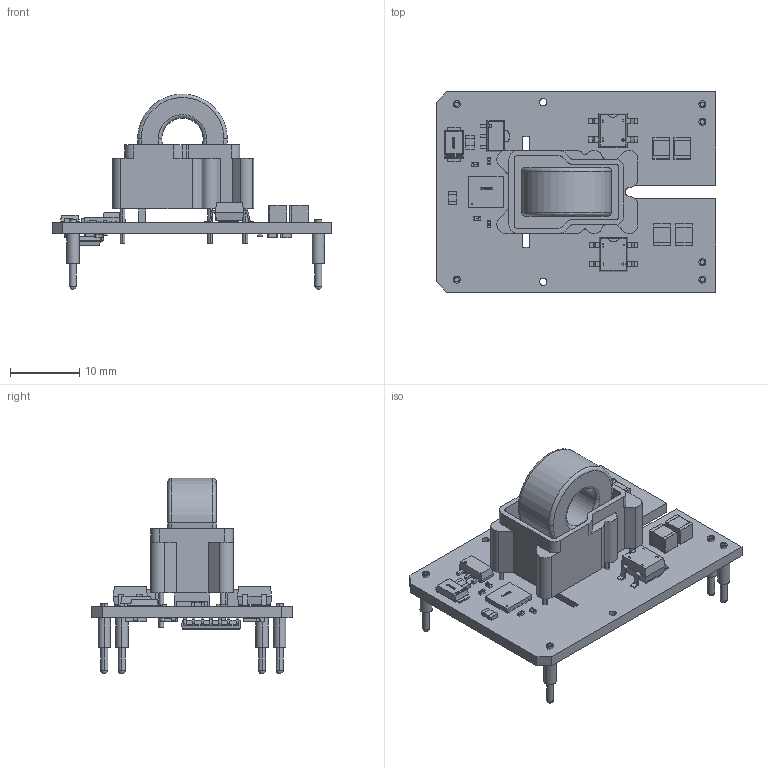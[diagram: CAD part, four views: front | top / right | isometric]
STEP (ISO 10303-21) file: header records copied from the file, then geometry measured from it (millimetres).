
FILE_DESCRIPTION(('for SolidWorks'),'2;1');
FILE_NAME('E:\Google Drive\03 Research & Development Projects\01 DCDC Converter for Gate Drives\07 3D Modeling\DC2CH\STEP\DC2CH.step', '2015-07-22T19:24:56',('ghayurshah'),(''), 'Open CASCADE STEP processor 6.6','Diptrace','Unknown');
FILE_SCHEMA(('AUTOMOTIVE_DESIGN { 1 0 10303 214 1 1 1 1 }'));
Length unit declared in the file: millimetre
Products named in the file (15): PCB; Board; Model_2; Model_9; Model_17; Model_21; Model_23; Model_26; Model_28; Model_33; Model_41; Model_43; Model_45; Model_47; Model_49
Assembly tree (37 placements, depth 2):
  PCB
    Board
    Model_2  x6
    Model_9  x7
    Model_17  x3
    Model_21
    Model_23  x2
    Model_26
    Model_28  x4
    Model_33  x7
    Model_41
    Model_43
    Model_45
    Model_47
    Model_49
Bounding box: 40.5 x 29 x 28.37 mm (x, y, z)
Volume: 1776.8 mm3; surface area: 5844.8 mm2
Topology: 1 solids, 65 shells, 2461 faces, 6075 edges, 3748 vertices
Faces by surface type: plane 1458, cylinder 481, bspline 392, sphere 126, torus 4
Full cylindrical faces by diameter (mm): 1.05 x2
Entity records: 53599 total; most frequent: CARTESIAN_POINT 16405, ORIENTED_EDGE 6092, DIRECTION 5382, EDGE_CURVE 3046, LINE 2230, VECTOR 2230, VERTEX_POINT 1924, AXIS2_PLACEMENT_3D 1576
